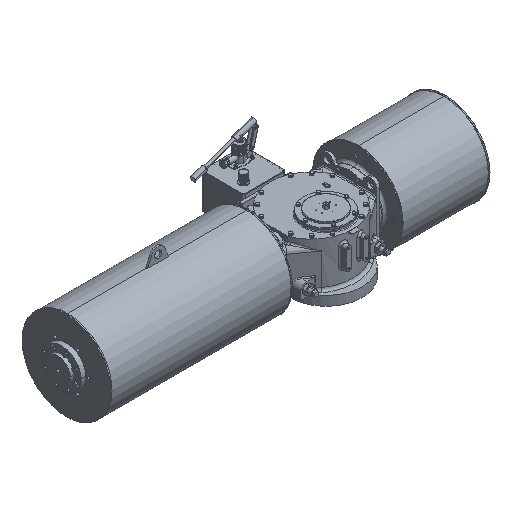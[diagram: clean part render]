
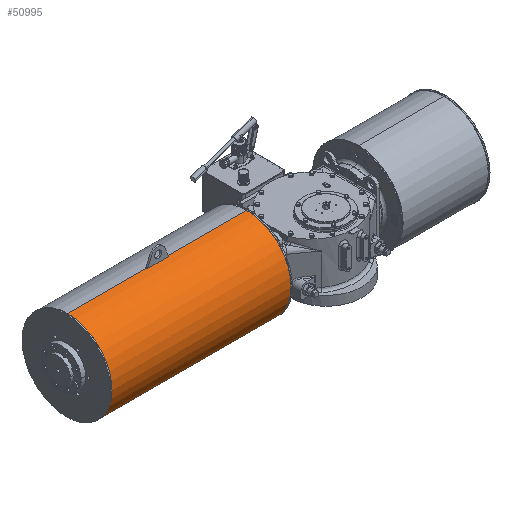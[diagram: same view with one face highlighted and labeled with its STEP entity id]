
A CAD part, isometric view. The second image highlights one B-rep face of the part: STEP entity #50995.
In plain terms, the highlighted cylindrical face has radius 254 mm (diameter 508 mm), a partial arc.
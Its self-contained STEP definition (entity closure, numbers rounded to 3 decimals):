
#1989 = VECTOR ( 'NONE', #68662, 1000. ) ;
#2631 = AXIS2_PLACEMENT_3D ( 'NONE', #50718, #83263, #10075 ) ;
#2766 = DIRECTION ( 'NONE',  ( -1., 0., 0. ) ) ;
#3703 = EDGE_CURVE ( 'NONE', #17081, #19125, #43968, .T. ) ;
#4499 = CARTESIAN_POINT ( 'NONE',  ( -317.5, 140., -141. ) ) ;
#4930 = CARTESIAN_POINT ( 'NONE',  ( -1340.5, 140., 367. ) ) ;
#4971 = EDGE_CURVE ( 'NONE', #92715, #84086, #33446, .T. ) ;
#5023 = LINE ( 'NONE', #63252, #71423 ) ;
#5808 = VECTOR ( 'NONE', #19342, 1000. ) ;
#7029 = CARTESIAN_POINT ( 'NONE',  ( -887.5, 140., 367. ) ) ;
#7067 = AXIS2_PLACEMENT_3D ( 'NONE', #31712, #71836, #38674 ) ;
#9493 = LINE ( 'NONE', #42122, #73247 ) ;
#9735 = CARTESIAN_POINT ( 'NONE',  ( -314.5, 140., 113. ) ) ;
#10075 = DIRECTION ( 'NONE',  ( 0., 0., -1. ) ) ;
#11673 = ORIENTED_EDGE ( 'NONE', *, *, #99924, .T. ) ;
#11709 = CARTESIAN_POINT ( 'NONE',  ( -314.5, -114., 113. ) ) ;
#11853 = EDGE_CURVE ( 'NONE', #19125, #43006, #29251, .T. ) ;
#12138 = ORIENTED_EDGE ( 'NONE', *, *, #3703, .T. ) ;
#13310 = AXIS2_PLACEMENT_3D ( 'NONE', #71081, #55045, #44398 ) ;
#13827 = CARTESIAN_POINT ( 'NONE',  ( -1340.5, -114., 113. ) ) ;
#17081 = VERTEX_POINT ( 'NONE', #28240 ) ;
#17576 = ORIENTED_EDGE ( 'NONE', *, *, #33021, .T. ) ;
#18618 = CARTESIAN_POINT ( 'NONE',  ( -767.5, 135., 366.951 ) ) ;
#19125 = VERTEX_POINT ( 'NONE', #93975 ) ;
#19342 = DIRECTION ( 'NONE',  ( -1., 0., 0. ) ) ;
#19901 = ORIENTED_EDGE ( 'NONE', *, *, #29708, .T. ) ;
#20878 = ORIENTED_EDGE ( 'NONE', *, *, #4971, .F. ) ;
#21380 = ORIENTED_EDGE ( 'NONE', *, *, #42991, .T. ) ;
#23505 = ORIENTED_EDGE ( 'NONE', *, *, #55568, .T. ) ;
#23551 = CIRCLE ( 'NONE', #13310, 254. ) ;
#27106 = DIRECTION ( 'NONE',  ( 1., 0., 0. ) ) ;
#28240 = CARTESIAN_POINT ( 'NONE',  ( -314.5, 140., 367. ) ) ;
#29251 = CIRCLE ( 'NONE', #7067, 254. ) ;
#29708 = EDGE_CURVE ( 'NONE', #68841, #41492, #91118, .T. ) ;
#31712 = CARTESIAN_POINT ( 'NONE',  ( -767.5, 140., 113. ) ) ;
#33021 = EDGE_CURVE ( 'NONE', #44411, #69106, #104376, .T. ) ;
#33446 = LINE ( 'NONE', #4499, #1989 ) ;
#33822 = DIRECTION ( 'NONE',  ( 0., 0., 1. ) ) ;
#38674 = DIRECTION ( 'NONE',  ( 0., 0., -1. ) ) ;
#39749 = DIRECTION ( 'NONE',  ( -1., 0., 0. ) ) ;
#41492 = VERTEX_POINT ( 'NONE', #13827 ) ;
#42122 = CARTESIAN_POINT ( 'NONE',  ( -317.5, 135., 366.951 ) ) ;
#42991 = EDGE_CURVE ( 'NONE', #65661, #17081, #48723, .T. ) ;
#43006 = VERTEX_POINT ( 'NONE', #18618 ) ;
#43673 = DIRECTION ( 'NONE',  ( 0., 0., -1. ) ) ;
#43968 = LINE ( 'NONE', #92543, #5808 ) ;
#44398 = DIRECTION ( 'NONE',  ( 0., 0., -1. ) ) ;
#44411 = VERTEX_POINT ( 'NONE', #81474 ) ;
#45305 = AXIS2_PLACEMENT_3D ( 'NONE', #88893, #39749, #72370 ) ;
#46178 = DIRECTION ( 'NONE',  ( -1., 0., 0. ) ) ;
#48525 = AXIS2_PLACEMENT_3D ( 'NONE', #77294, #27106, #43673 ) ;
#48723 = CIRCLE ( 'NONE', #2631, 254. ) ;
#49887 = EDGE_LOOP ( 'NONE', ( #50739, #21380, #12138, #53784, #72272, #17576, #23505, #19901, #11673, #20878 ) ) ;
#50718 = CARTESIAN_POINT ( 'NONE',  ( -314.5, 140., 113. ) ) ;
#50739 = ORIENTED_EDGE ( 'NONE', *, *, #90282, .T. ) ;
#50995 = ADVANCED_FACE ( 'NONE', ( #103927 ), #87831, .T. ) ;
#53074 = AXIS2_PLACEMENT_3D ( 'NONE', #9735, #2766, #74961 ) ;
#53784 = ORIENTED_EDGE ( 'NONE', *, *, #11853, .T. ) ;
#54610 = CARTESIAN_POINT ( 'NONE',  ( -314.5, 140., -141. ) ) ;
#55045 = DIRECTION ( 'NONE',  ( 1., 0., 0. ) ) ;
#55568 = EDGE_CURVE ( 'NONE', #69106, #68841, #5023, .T. ) ;
#58658 = DIRECTION ( 'NONE',  ( 1., 0., 0. ) ) ;
#62476 = EDGE_CURVE ( 'NONE', #44411, #43006, #9493, .T. ) ;
#63252 = CARTESIAN_POINT ( 'NONE',  ( -317.5, 140., 367. ) ) ;
#65661 = VERTEX_POINT ( 'NONE', #11709 ) ;
#68662 = DIRECTION ( 'NONE',  ( -1., 0., 0. ) ) ;
#68841 = VERTEX_POINT ( 'NONE', #4930 ) ;
#69106 = VERTEX_POINT ( 'NONE', #7029 ) ;
#71081 = CARTESIAN_POINT ( 'NONE',  ( -1340.5, 140., 113. ) ) ;
#71423 = VECTOR ( 'NONE', #46178, 1000. ) ;
#71836 = DIRECTION ( 'NONE',  ( 1., 0., 0. ) ) ;
#72272 = ORIENTED_EDGE ( 'NONE', *, *, #62476, .F. ) ;
#72370 = DIRECTION ( 'NONE',  ( 0., 0., -1. ) ) ;
#73247 = VECTOR ( 'NONE', #58658, 1000. ) ;
#74961 = DIRECTION ( 'NONE',  ( 0., 0., -1. ) ) ;
#77294 = CARTESIAN_POINT ( 'NONE',  ( -1340.5, 140., 113. ) ) ;
#81474 = CARTESIAN_POINT ( 'NONE',  ( -887.5, 135., 366.951 ) ) ;
#81890 = DIRECTION ( 'NONE',  ( -1., 0., 0. ) ) ;
#82062 = CARTESIAN_POINT ( 'NONE',  ( -1340.5, 140., -141. ) ) ;
#83263 = DIRECTION ( 'NONE',  ( -1., 0., 0. ) ) ;
#84086 = VERTEX_POINT ( 'NONE', #82062 ) ;
#87831 = CYLINDRICAL_SURFACE ( 'NONE', #45305, 254. ) ;
#88893 = CARTESIAN_POINT ( 'NONE',  ( -317.5, 140., 113. ) ) ;
#90282 = EDGE_CURVE ( 'NONE', #92715, #65661, #104500, .T. ) ;
#90947 = CARTESIAN_POINT ( 'NONE',  ( -887.5, 140., 113. ) ) ;
#91118 = CIRCLE ( 'NONE', #48525, 254. ) ;
#92543 = CARTESIAN_POINT ( 'NONE',  ( -317.5, 140., 367. ) ) ;
#92715 = VERTEX_POINT ( 'NONE', #54610 ) ;
#93975 = CARTESIAN_POINT ( 'NONE',  ( -767.5, 140., 367. ) ) ;
#94079 = AXIS2_PLACEMENT_3D ( 'NONE', #90947, #81890, #33822 ) ;
#99924 = EDGE_CURVE ( 'NONE', #41492, #84086, #23551, .T. ) ;
#103927 = FACE_OUTER_BOUND ( 'NONE', #49887, .T. ) ;
#104376 = CIRCLE ( 'NONE', #94079, 254. ) ;
#104500 = CIRCLE ( 'NONE', #53074, 254. ) ;
